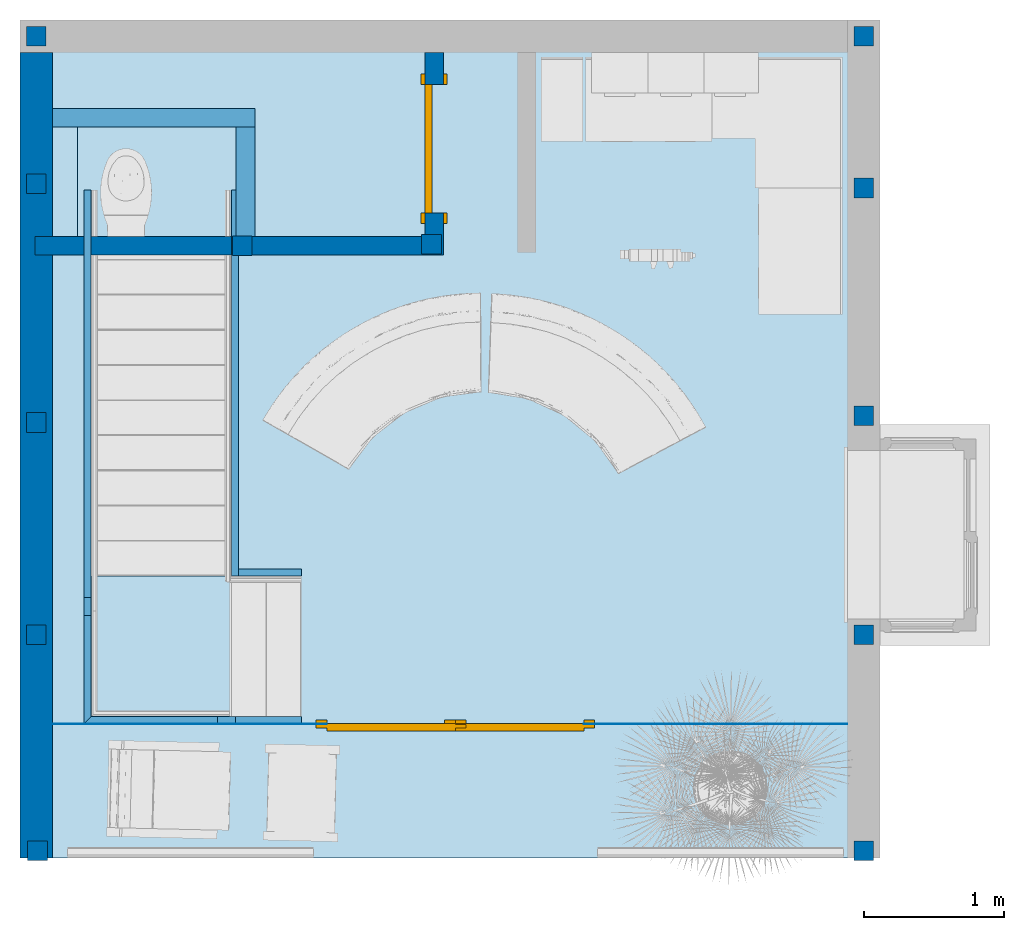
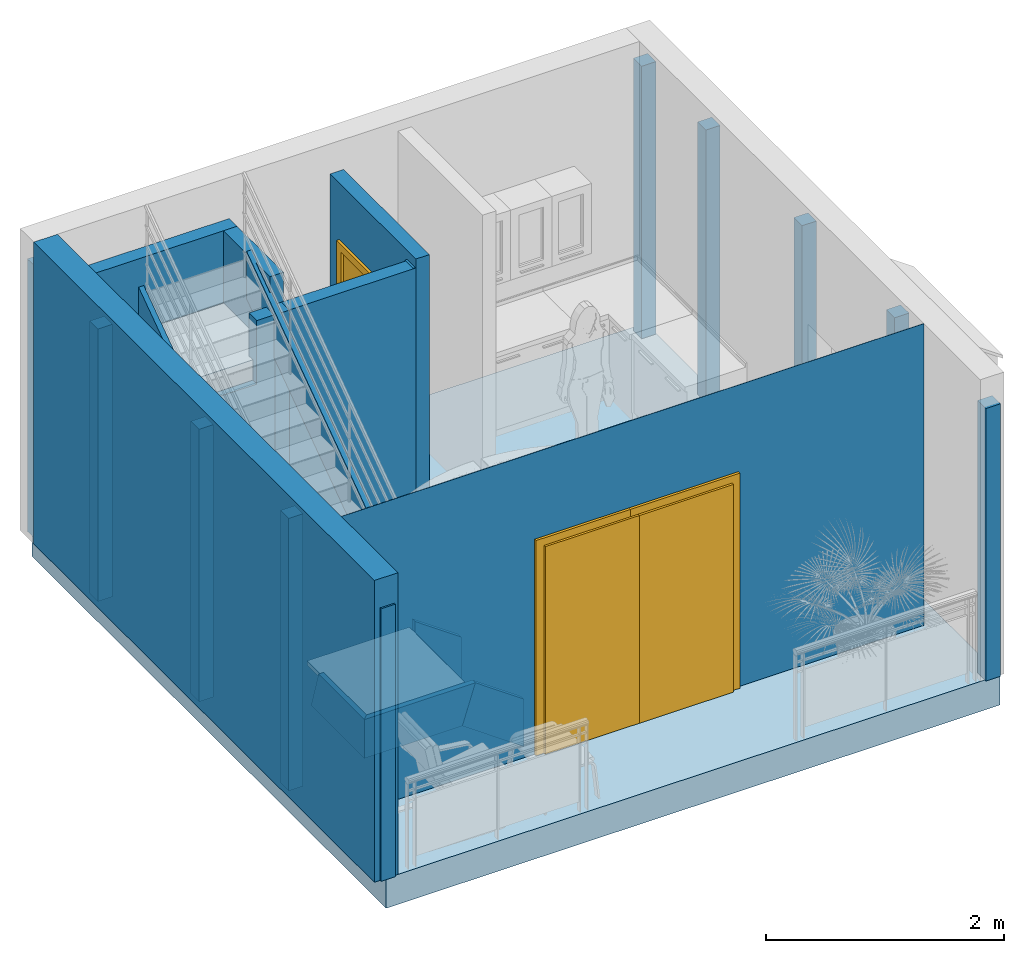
# One storey, part 1 of 7: 12 columns, 6 members, 6 walls, 3 doors, 3 slabs, 4 openings, 1 element without a shape of its own.
"""IFC2X3 building model written with IfcOpenShell, lengths in metres."""

from ifc_helpers import new_model, entity, si_unit, converted_unit, derived_unit, direction, frame, frame_2d, origin, origin_2d_with_axis, place, context, subcontext, project, spatial, polyline, circle_curve, parameter, trimmed, segment, composite_curve, rectangle, outline, extrude, clip, bounded_halfspace, faceted_brep, source, transform, mapped, material, layer, layer_set, layer_usage, type_object, type_shapes, element, fill, aggregate, save


model = new_model("IFC2X3")

# Units and contexts
model_context = context("Model", 3, precision=1e-05, world=origin(), true_north=direction((6.123233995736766e-17, 1.0)))
body_context = subcontext(model_context, "Body", "Model", "MODEL_VIEW")
ifc_project = project(units=[si_unit("LENGTHUNIT", "METRE"), si_unit("AREAUNIT", "SQUARE_METRE"), converted_unit("PLANEANGLEUNIT", "DEGREE", entity("IfcPlaneAngleMeasure", 0.017453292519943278), si_unit("PLANEANGLEUNIT", "RADIAN"), dimensions=[0, 0, 0, 0, 0, 0, 0]), derived_unit("THERMALTRANSMITTANCEUNIT", [(si_unit("MASSUNIT", "GRAM", prefix="KILO"), 1), (si_unit("THERMODYNAMICTEMPERATUREUNIT", "KELVIN"), -1), (si_unit("TIMEUNIT", "SECOND"), -3)])], contexts=[model_context])

# Site, building, storey
site_placement = place(None, origin())
site = spatial("IfcSite", under=ifc_project, at=site_placement, Name="Default", CompositionType="ELEMENT")
building_placement = place(site_placement, origin())
building = spatial("IfcBuilding", under=site, at=building_placement, CompositionType="ELEMENT")
storey_placement = place(building_placement, origin())
storey = spatial("IfcBuildingStorey", under=building, at=storey_placement, Name="0 - Ground Floor", CompositionType="ELEMENT", Elevation=0.0)

# Columns
ifc_material_1 = material(Name="Softwood, Lumber")
column_type_1 = type_object("IfcColumnType", Name="M_Timber-Column:140x140", PredefinedType="COLUMN", material=ifc_material_1)
shared_shape_1 = source(origin(), body_context, "Body", "SweptSolid", [
    extrude(rectangle(XDim=0.1397, YDim=0.1397, at=origin_2d_with_axis()), frame((0.0, 0.0, 0.0), z_axis=(0.0, 0.0, 1.0), x_axis=(-1.0, 0.0, 0.0)), (0.0, 0.0, 1.0), 2.8000000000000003),
])
type_shapes(column_type_1, [shared_shape_1])
for number, where, name in (
    (1, (-2.41192403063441, -2.145749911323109, 0.0), "M_Timber-Column:140x140"),
    (2, (-2.4219240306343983, 3.652051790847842, 0.0), "M_Timber-Column:140x140"),
    (3, (3.468075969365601, 3.652051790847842, 0.0), "M_Timber-Column:140x140"),
    (4, (3.468075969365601, -2.1457499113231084, 0.0), "M_Timber-Column:140x140"),
    (5, (3.468075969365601, 0.9511031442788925, 0.0), "M_Timber-Column:140x140"),
    (6, (-2.421924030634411, 0.9020517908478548, 0.0), "M_Timber-Column:140x140"),
    (7, (-2.4219240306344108, 2.6020517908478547, 0.0), "M_Timber-Column:140x140"),
    (8, (3.468075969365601, 2.5711031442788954, 0.0), "M_Timber-Column:140x140"),
    (9, (3.468075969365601, -0.6088968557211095, 0.0), "M_Timber-Column:140x140"),
    (10, (-2.421924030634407, -0.6088968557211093, 0.0), "M_Timber-Column:140x140"),
):
    element("IfcColumn", number, at=place(storey_placement, frame(where)), inside=storey, type_object=column_type_1, material=ifc_material_1, Name=name, ObjectType="M_Timber-Column:140x140", context=body_context, shape_type="MappedRepresentation", body=[
        mapped(shared_shape_1, transform((0.0, 0.0, 0.0), scale=1.0)),
    ])
column_type_2 = type_object("IfcColumnType", Name="M_Timber-Column:140x140", PredefinedType="COLUMN", material=ifc_material_1)
shared_shape_2 = source(origin(), body_context, "Body", "SweptSolid", [
    extrude(rectangle(XDim=0.1397, YDim=0.1397, at=origin_2d_with_axis()), frame((0.0, 0.0, 0.0), z_axis=(0.0, 0.0, 1.0), x_axis=(-1.0, 0.0, 0.0)), (0.0, 0.0, 1.0), 2.7),
])
type_shapes(column_type_2, [shared_shape_2])
for number, where, name in (
    (11, (0.39207596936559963, 2.1701031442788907, 0.0), "M_Timber-Column:140x140"),
    (12, (-0.9559240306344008, 2.160103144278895, 0.0), "M_Timber-Column:140x140"),
):
    element("IfcColumn", number, at=place(storey_placement, frame(where)), inside=storey, type_object=column_type_2, material=ifc_material_1, Name=name, ObjectType="M_Timber-Column:140x140", context=body_context, shape_type="MappedRepresentation", body=[
        mapped(shared_shape_2, transform((0.0, 0.0, 0.0), scale=1.0)),
    ])

# Stair, members
type_product = type_object("IfcTypeProduct", Name="Assembled Stair:Industrial and Assembly")
stair_placement = place(storey_placement, origin())
stair = element("IfcStair", 13, at=stair_placement, inside=storey, type_object=type_product, Name="Assembled Stair:Stair", ObjectType="Assembled Stair:Industrial and Assembly", ShapeType="QUARTER_TURN_STAIR")
ifc_material_2 = material(Name="Default - Calcestruzzo")
member_type = type_object("IfcMemberType", Name="Stringer:Stringer - 50mm Width", PredefinedType="STRINGER")
member_1_placement = place(stair_placement, origin())
member_1 = element("IfcMember", 14, at=member_1_placement, type_object=member_type, material=ifc_material_2, Name="Assembled Stair:Stair:593008 Stringer 1", ObjectType="Stringer:Stringer - 50mm Width", context=body_context, shape_type="SweptSolid", body=[
    extrude(outline(polyline([(-0.4680746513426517, -0.20000000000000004), (0.2634206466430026, -0.2), (0.3903757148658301, 0.2000000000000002), (-0.18572171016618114, 0.2), (-0.4680746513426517, -0.20000000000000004)])), frame((-0.7989893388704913, -1.2417499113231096, 0.5438362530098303), z_axis=(0.0, 1.0, 0.0), x_axis=(-0.8169678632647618, 0.0, 0.5766831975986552)), (0.0, 0.0, 1.0), 0.05),
])
member_2_placement = place(stair_placement, origin())
member_2 = element("IfcMember", 15, at=member_2_placement, type_object=member_type, material=ifc_material_2, Name="Assembled Stair:Stair:593008 Stringer 2", ObjectType="Stringer:Stringer - 50mm Width", context=body_context, shape_type="SweptSolid", body=[
    extrude(outline(polyline([(-0.4678557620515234, -0.19460099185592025), (0.08296149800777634, -0.1946009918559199), (0.2050826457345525, -0.021596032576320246), (0.3653144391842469, 0.20539900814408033), (-0.18550282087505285, 0.20539900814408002), (-0.4678557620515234, -0.19460099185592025)])), frame((-0.8019240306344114, -0.19174991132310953, 0.5392992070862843), z_axis=(0.0, 1.0, 0.0), x_axis=(-0.8169678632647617, 0.0, 0.5766831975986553)), (0.0, 0.0, 1.0), 0.05),
])
member_3_placement = place(stair_placement, origin())
member_3 = element("IfcMember", 16, at=member_3_placement, type_object=member_type, material=ifc_material_2, Name="Assembled Stair:Stair:593008 Stringer 3", ObjectType="Stringer:Stringer - 50mm Width", context=body_context, shape_type="SweptSolid", body=[
    extrude(outline(polyline([(-1.878646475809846, -0.20000000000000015), (1.673992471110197, -0.19999999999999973), (1.9563454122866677, 0.20000000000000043), (-1.7516914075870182, 0.20000000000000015), (-1.878646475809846, -0.20000000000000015)])), frame((-2.081924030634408, 1.0753153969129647, 1.7791303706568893), z_axis=(1.0, 0.0, 0.0), x_axis=(0.0, 0.8169678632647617, 0.5766831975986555)), (0.0, 0.0, 1.0), 0.04999999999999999),
])
member_4_placement = place(stair_placement, origin())
member_4 = element("IfcMember", 17, at=member_4_placement, type_object=member_type, material=ifc_material_2, Name="Assembled Stair:Stair:593008 Stringer 4", ObjectType="Stringer:Stringer - 50mm Width", context=body_context, shape_type="SweptSolid", body=[
    extrude(outline(polyline([(-1.824229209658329, -0.2), (1.5418762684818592, -0.20000000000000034), (1.8242292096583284, 0.20000000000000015), (-1.5418762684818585, 0.19999999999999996), (-1.824229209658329, -0.2)])), frame((-1.031924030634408, 1.1832500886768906, 1.8553195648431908), z_axis=(1.0, 0.0, 0.0), x_axis=(0.0, 0.8169678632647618, 0.5766831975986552)), (0.0, 0.0, 1.0), 0.049999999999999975),
])
member_5_placement = place(stair_placement, frame((-2.081924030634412, -1.2417499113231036, 0.5323529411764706)))
member_5 = element("IfcMember", 18, at=member_5_placement, type_object=member_type, material=ifc_material_2, Name="Assembled Stair:Stair:593008 Stringer 5", ObjectType="Stringer:Stringer - 50mm Width", context=body_context, shape_type="Brep", body=[
    faceted_brep([(0.050000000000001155, 0.7706530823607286, 0.4), (0.0, 0.7706530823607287, 0.4), (0.0, 0.0, 0.4), (0.04999999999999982, 0.0499999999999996, 0.4), (0.050000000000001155, 0.8976081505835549, 0.0), (0.04999999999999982, 0.0499999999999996, 0.0), (0.0, 0.8976081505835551, 0.0), (0.0, 0.0, 0.0)], [[[0, 1, 2, 3]], [[4, 0, 3, 5]], [[6, 4, 5, 7]], [[1, 6, 7, 2]], [[1, 0, 4, 6]], [[2, 7, 5, 3]]]),
])
member_6_placement = place(stair_placement, frame((-2.081924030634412, -1.2417499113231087, 0.5323529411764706)))
member_6 = element("IfcMember", 19, at=member_6_placement, type_object=member_type, material=ifc_material_2, Name="Assembled Stair:Stair:593008 Stringer 6", ObjectType="Stringer:Stringer - 50mm Width", context=body_context, shape_type="Brep", body=[
    faceted_brep([(0.04999999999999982, 0.05000000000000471, 0.4), (0.0, 0.0, 0.4), (1.0793469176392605, 0.0, 0.4), (1.0793469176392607, 0.050000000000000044, 0.4), (0.04999999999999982, 0.05000000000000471, 0.0), (0.9523918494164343, 0.05000000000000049, 0.0), (0.0, 0.0, 0.0), (0.9523918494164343, 0.0, 0.0)], [[[0, 1, 2, 3]], [[4, 0, 3, 5]], [[6, 4, 5, 7]], [[1, 6, 7, 2]], [[1, 0, 4, 6]], [[2, 7, 5, 3]]]),
])

# Slab
ifc_material_3 = material(Name="Wood Vinyl Finish")
ifc_layer_1 = layer(ifc_material_3, 0.015)
ifc_material_4 = material(Name="wood fiber")
ifc_layer_2 = layer(ifc_material_4, 0.02)
ifc_material_5 = material(Name="Structure, Timber Joist/Rafter Layer")
ifc_layer_3 = layer(ifc_material_5, 0.2)
ifc_material_6 = material(Name="cross laminated timber")
ifc_layer_4 = layer(ifc_material_6, 0.02)
ifc_material_7 = material(Name="vapor barrier")
ifc_layer_5 = layer(ifc_material_7, 0.003)
ifc_material_8 = material(Name="Ghiaia")
ifc_layer_6 = layer(ifc_material_8, 0.05)
ifc_layer_set_1 = layer_set([ifc_layer_1, ifc_layer_2, ifc_layer_3, ifc_layer_4, ifc_layer_5, ifc_layer_6], Name="Floor:Latero Cementizio - 40 cm")
ifc_layer_usage_1 = layer_usage(ifc_layer_set_1, "AXIS3", "POSITIVE", 0.0)
slab_type_1 = type_object("IfcSlabType", Name="Floor:Latero Cementizio - 40 cm", PredefinedType="FLOOR", material=ifc_layer_set_1)
slab_1_placement = place(storey_placement, origin())
element("IfcSlab", 20, at=slab_1_placement, inside=storey, type_object=slab_type_1, material=ifc_layer_usage_1, Name="Floor:Latero Cementizio - 40 cm", ObjectType="Floor:Latero Cementizio - 40 cm", PredefinedType="FLOOR", context=body_context, shape_type="SweptSolid", body=[
    extrude(rectangle(XDim=5.965000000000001, YDim=5.965, at=frame_2d((0.0, 2.220446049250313e-16), x_axis=(1.0, 0.0))), frame((0.5605759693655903, 0.7845517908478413, 0.0), z_axis=(0.0, 0.0, -1.0), x_axis=(0.0, 1.0, 0.0)), (0.0, 0.0, 1.0), 0.30799999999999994),
])

slab_type_2 = type_object("IfcSlabType", Name="Non-Monolithic Landing:Non-Monolithic Landing", PredefinedType="LANDING")
slab_2_placement = place(stair_placement, origin())
slab_2 = element("IfcSlab", 21, at=slab_2_placement, type_object=slab_type_2, material=ifc_material_2, Name="Assembled Stair:Stair:593008 Landing 1", ObjectType="Non-Monolithic Landing:Non-Monolithic Landing", PredefinedType="LANDING", context=body_context, shape_type="SweptSolid", body=[
    extrude(outline(composite_curve([segment(trimmed(circle_curve(frame_2d((-0.3959999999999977, 0.01399999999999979), x_axis=(1.0, 0.0)), 0.009999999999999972), [parameter(90.00000000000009)], [parameter(269.9999999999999)], True, "PARAMETER"), True, "CONTINUOUS"), segment(polyline([(-0.3959999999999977, 0.0039999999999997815), (-0.3959999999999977, -0.026000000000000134)]), True, "CONTINUOUS"), segment(polyline([(-0.3959999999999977, -0.026000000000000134), (0.5939999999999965, -0.026000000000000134)]), True, "CONTINUOUS"), segment(polyline([(0.5939999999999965, -0.026000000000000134), (0.5939999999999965, 0.0239999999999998)]), True, "CONTINUOUS"), segment(polyline([(0.5939999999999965, 0.0239999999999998), (-0.3959999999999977, 0.0239999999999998)]), True, "CONTINUOUS")], self_intersect=False)), frame((-1.4379240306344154, -1.191749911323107, 0.8583529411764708), z_axis=(0.0, 1.0, 0.0), x_axis=(-1.0, 0.0, 0.0)), (0.0, 0.0, 1.0), 0.9999999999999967),
])

aggregate(stair, [slab_2, member_1, member_2, member_3, member_4, member_5, member_6])

ifc_layer_7 = layer(ifc_material_2, 0.20999999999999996)
ifc_layer_set_2 = layer_set([ifc_layer_7], Name="Floor:Calcestruzzo da 160 mm con soletta metallica da 50 mm")
ifc_layer_usage_2 = layer_usage(ifc_layer_set_2, "AXIS3", "POSITIVE", 0.0)
slab_type_3 = type_object("IfcSlabType", Name="Floor:Calcestruzzo da 160 mm con soletta metallica da 50 mm", PredefinedType="FLOOR", material=ifc_layer_set_2)
slab_3_placement = place(storey_placement, origin())
element("IfcSlab", 22, at=slab_3_placement, inside=storey, type_object=slab_type_3, material=ifc_layer_usage_2, Name="Floor:Calcestruzzo da 160 mm con soletta metallica da 50 mm", ObjectType="Floor:Calcestruzzo da 160 mm con soletta metallica da 50 mm", PredefinedType="FLOOR", context=body_context, shape_type="SweptSolid", body=[
    extrude(rectangle(XDim=0.9099999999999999, YDim=1.1945999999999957, at=frame_2d((0.0, -1.1102230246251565e-16), x_axis=(1.0, 0.0))), frame((-1.5292240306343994, 2.615103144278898, 2.258215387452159), z_axis=(0.0, 0.0, -1.0), x_axis=(0.0, 1.0, 0.0)), (0.0, 0.0, 1.0), 0.2099999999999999),
])

# Wall
ifc_material_9 = material(Name="gypsum plaster")
ifc_layer_8 = layer(ifc_material_9, 0.025)
ifc_layer_9 = layer(ifc_material_4, 0.02)
ifc_material_10 = material(Name="osb panel")
ifc_layer_10 = layer(ifc_material_10, 0.02)
ifc_layer_11 = layer(ifc_material_4, 0.02)
ifc_material_11 = material(Name="water proof and wind proof sheet")
ifc_layer_12 = layer(ifc_material_11, 0.005)
ifc_layer_13 = layer(ifc_material_10, 0.02)
ifc_material_12 = material(Name="mineral rock wool")
ifc_layer_14 = layer(ifc_material_12, 0.04)
ifc_material_13 = material(Name="air cavity")
ifc_layer_15 = layer(ifc_material_13, 0.05)
ifc_material_14 = material(Name="plaster board panel")
ifc_layer_16 = layer(ifc_material_14, 0.03)
ifc_layer_set_3 = layer_set([ifc_layer_8, ifc_layer_9, ifc_layer_10, ifc_layer_11, ifc_layer_12, ifc_layer_13, ifc_layer_14, ifc_layer_15, ifc_layer_16], Name="Basic Wall:external wall 2")
ifc_layer_usage_3 = layer_usage(ifc_layer_set_3, "AXIS2", "NEGATIVE", 0.11500000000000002)
wall_type_1 = type_object("IfcWallType", Name="Basic Wall:external wall 2", PredefinedType="STANDARD", material=ifc_layer_set_3)
wall_1_placement = place(storey_placement, frame((-2.421924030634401, 3.537051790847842, 0.0), z_axis=(0.0, 0.0, 1.0), x_axis=(0.0, -1.0, 0.0)))
element("IfcWallStandardCase", 23, at=wall_1_placement, inside=storey, type_object=wall_type_1, material=ifc_layer_usage_3, Name="Basic Wall:external wall 2", ObjectType="Basic Wall:external wall 2", context=body_context, shape_type="SweptSolid", body=[
    extrude(rectangle(XDim=5.735000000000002, YDim=0.22999999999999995, at=frame_2d((2.867500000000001, 3.122502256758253e-16), x_axis=(-1.0, 0.0))), origin(), (0.0, 0.0, 1.0), 3.0999999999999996),
])

# Wall, opening
ifc_material_15 = material(Name="Tiles")
ifc_layer_17 = layer(ifc_material_15, 0.003999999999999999)
ifc_material_16 = material(Name="Cement Board")
ifc_layer_18 = layer(ifc_material_16, 0.046)
ifc_layer_19 = layer(ifc_material_11, 0.003999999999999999)
ifc_layer_20 = layer(ifc_material_6, 0.02)
ifc_material_17 = material(Name="polyethylene plastic sheeting")
ifc_layer_21 = layer(ifc_material_17, 0.006)
ifc_layer_22 = layer(ifc_material_6, 0.02)
ifc_material_18 = material(Name="acoustic oak wood wall cladding")
ifc_layer_23 = layer(ifc_material_18, 0.02)
ifc_material_19 = material(Name="Gypsum Wall Board")
ifc_layer_24 = layer(ifc_material_19, 0.012)
ifc_layer_set_4 = layer_set([ifc_layer_17, ifc_layer_18, ifc_layer_19, ifc_layer_20, ifc_layer_21, ifc_layer_22, ifc_layer_23, ifc_layer_24], Name="Basic Wall:interior v1")
ifc_layer_usage_4 = layer_usage(ifc_layer_set_4, "AXIS2", "NEGATIVE", 0.066)
wall_type_2 = type_object("IfcWallType", Name="Basic Wall:interior v1", PredefinedType="STANDARD", material=ifc_layer_set_4)
wall_2_placement = place(storey_placement, frame((-2.431924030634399, 2.1601031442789, 0.0)))
wall_2 = element("IfcWallStandardCase", 24, at=wall_2_placement, inside=storey, type_object=wall_type_2, material=ifc_layer_usage_4, Name="Basic Wall:interior v1", ObjectType="Basic Wall:interior v1", context=body_context, shape_type="SweptSolid", body=[
    extrude(rectangle(XDim=2.7759999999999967, YDim=0.13199999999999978, at=frame_2d((1.3879999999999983, 8.326672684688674e-17), x_axis=(-1.0, 0.0))), origin(), (0.0, 0.0, 1.0), 2.7),
])
opening_1_placement = place(wall_2_placement, origin())
element("IfcOpeningElement", 25, at=opening_1_placement, cuts=wall_2, Name="Basic Wall:interior v1", ObjectType="Opening", context=body_context, shape_type="SweptSolid", body=[
    extrude(rectangle(XDim=0.6517846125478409, YDim=1.2299999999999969, at=frame_2d((2.7755575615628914e-16, 0.0), x_axis=(0.0, 1.0))), frame((0.6149999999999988, 0.06600000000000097, 2.3741076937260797), z_axis=(0.0, -1.0, 0.0), x_axis=(-1.0, 0.0, 0.0)), (0.0, 0.0, 1.0), 0.132),
])

# Wall, opening, door
ifc_layer_usage_5 = layer_usage(ifc_layer_set_4, "AXIS2", "NEGATIVE", 0.066)
wall_3_placement = place(storey_placement, frame((0.41007596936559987, 3.5370517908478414, 0.0), z_axis=(0.0, 0.0, 1.0), x_axis=(0.0, -1.0, 0.0)))
wall_3 = element("IfcWallStandardCase", 26, at=wall_3_placement, inside=storey, type_object=wall_type_2, material=ifc_layer_usage_5, Name="Basic Wall:interior v1", ObjectType="Basic Wall:interior v1", context=body_context, shape_type="Clipping", body=[
    clip(extrude(rectangle(XDim=1.4429486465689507, YDim=0.13200000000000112, at=frame_2d((0.7214743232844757, -6.522560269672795e-16), x_axis=(1.0, 0.0))), origin(), (0.0, 0.0, 1.0), 2.792), bounded_halfspace(frame((0.0, -0.066, 2.792), z_axis=(0.0, 0.0, -1.0), x_axis=(1.0, 0.0, 0.0)), True, frame((0.0, -0.066, 2.792)), polyline([(0.0, 0.0), (1.442948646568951, 0.0), (1.4429486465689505, 0.13199999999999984), (0.0, 0.13200000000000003), (0.0, 0.0)]))),
])
opening_2_placement = place(wall_3_placement, frame((1.143804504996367, 0.06599999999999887, 0.0)))
opening_2 = element("IfcOpeningElement", 27, at=opening_2_placement, cuts=wall_3, Name="M_Single-Flush:0915 x 2134mm:1", ObjectType="Opening", context=body_context, shape_type="SweptSolid", body=[
    extrude(rectangle(XDim=0.9149999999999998, YDim=2.1339999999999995, at=frame_2d((1.0669999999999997, 0.45749999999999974), x_axis=(0.0, 1.0))), frame((0.0, 0.0, 0.0), z_axis=(0.0, -1.0, 0.0), x_axis=(0.0, 0.0, 1.0)), (0.0, 0.0, 1.0), 0.132),
])
ifc_material_20 = material(Name="Glass")
door_style_1 = type_object("IfcDoorStyle", Name="M_Single-Flush:0915 x 2134mm", ConstructionType="NOTDEFINED", OperationType="SINGLE_SWING_RIGHT", ParameterTakesPrecedence=False, Sizeable=False, material=ifc_material_20)
shared_shape_3 = source(origin(), body_context, "Body", "SweptSolid", [
    extrude(outline(polyline([(-0.5335, -1.1239999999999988), (0.5334999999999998, -1.1239999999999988), (0.5334999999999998, 1.0860000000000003), (0.45749999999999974, 1.0860000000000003), (0.45749999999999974, -1.0480000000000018), (-0.45749999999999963, -1.0480000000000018), (-0.45749999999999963, 1.0860000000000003), (-0.5335, 1.0860000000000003), (-0.5335, -1.1239999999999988)])), frame((0.45750000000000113, 0.13200000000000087, 1.0860000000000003), z_axis=(0.0, 1.0, 0.0), x_axis=(1.0, 0.0, 0.0)), (0.0, 0.0, 1.0), 0.024999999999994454),
    extrude(outline(polyline([(-1.1239999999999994, -0.5334999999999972), (1.0859999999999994, -0.5334999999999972), (1.0859999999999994, -0.4575000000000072), (-1.0479999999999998, -0.4575000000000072), (-1.0479999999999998, 0.4575000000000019), (1.0859999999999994, 0.4575000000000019), (1.0859999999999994, 0.5335000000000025), (-1.1239999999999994, 0.5335000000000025), (-1.1239999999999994, -0.5334999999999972)])), frame((0.4575000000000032, -0.02500000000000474, 1.0859999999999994), z_axis=(0.0, 1.0, 0.0), x_axis=(0.0, 0.0, -1.0)), (0.0, 0.0, 1.0), 0.025000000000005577),
    extrude(rectangle(XDim=0.051000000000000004, YDim=0.9149999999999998, at=frame_2d((-3.469446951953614e-18, 0.0), x_axis=(1.0, 0.0))), frame((0.45750000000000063, 0.10650000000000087, 0.0), z_axis=(0.0, 0.0, 1.0), x_axis=(0.0, 1.0, 0.0)), (0.0, 0.0, 1.0), 2.133999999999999),
])
type_shapes(door_style_1, [shared_shape_3])
door_1_placement = place(opening_2_placement, frame((0.0, 0.0, 0.0), z_axis=(0.0, 0.0, 1.0), x_axis=(-1.0, 0.0, 0.0)))
door_1 = element("IfcDoor", 28, at=door_1_placement, inside=storey, type_object=door_style_1, material=ifc_material_20, Name="M_Single-Flush:0915 x 2134mm", ObjectType="M_Single-Flush:0915 x 2134mm", OverallHeight=2.1339999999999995, OverallWidth=0.9149999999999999, context=body_context, shape_type="MappedRepresentation", body=[
    mapped(shared_shape_3, transform((0.0, 0.0, 0.0), scale=1.0)),
])
fill(opening_2, door_1)

# Walls
ifc_layer_usage_6 = layer_usage(ifc_layer_set_4, "AXIS2", "NEGATIVE", 0.066)
wall_4_placement = place(storey_placement, frame((-2.3069240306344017, 3.0718583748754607, 2.048215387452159)))
element("IfcWallStandardCase", 29, at=wall_4_placement, inside=storey, type_object=wall_type_2, material=ifc_layer_usage_6, Name="Basic Wall:interior v1", ObjectType="Basic Wall:interior v1", context=body_context, shape_type="SweptSolid", body=[
    extrude(rectangle(XDim=1.4410000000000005, YDim=0.13200000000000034, at=frame_2d((0.7205000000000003, -1.1102230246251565e-16), x_axis=(-1.0, 0.0))), origin(), (0.0, 0.0, 1.0), 0.9517846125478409),
])
ifc_layer_usage_7 = layer_usage(ifc_layer_set_4, "AXIS2", "NEGATIVE", 0.066)
wall_5_placement = place(storey_placement, frame((-0.9319240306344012, 3.005858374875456, 2.048215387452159), z_axis=(0.0, 0.0, 1.0), x_axis=(0.0, -1.0, 0.0)))
element("IfcWallStandardCase", 30, at=wall_5_placement, inside=storey, type_object=wall_type_2, material=ifc_layer_usage_7, Name="Basic Wall:interior v1", ObjectType="Basic Wall:interior v1", context=body_context, shape_type="SweptSolid", body=[
    extrude(rectangle(XDim=0.7797552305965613, YDim=0.13200000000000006, at=frame_2d((0.38987761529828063, 3.469446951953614e-17), x_axis=(-1.0, 0.0))), origin(), (0.0, 0.0, 1.0), 0.9517846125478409),
])

# Wall, openings, doors
ifc_material_21 = material(Name="Glass, Clear Glazing")
ifc_layer_25 = layer(ifc_material_21, 0.004)
ifc_layer_set_5 = layer_set([ifc_layer_25], Name="Basic Wall:Exterior - Brick on Mtl. Stud")
ifc_layer_usage_8 = layer_usage(ifc_layer_set_5, "AXIS2", "NEGATIVE", 0.002000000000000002)
wall_type_3 = type_object("IfcWallType", Name="Basic Wall:Exterior - Brick on Mtl. Stud", PredefinedType="STANDARD", material=ifc_layer_set_5)
wall_6_placement = place(storey_placement, frame((3.3530759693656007, -1.2437499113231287, 0.0), z_axis=(0.0, 0.0, 1.0), x_axis=(-1.0, 0.0, 0.0)))
wall_6 = element("IfcWallStandardCase", 31, at=wall_6_placement, inside=storey, type_object=wall_type_3, material=ifc_layer_usage_8, Name="Basic Wall:Exterior - Brick on Mtl. Stud", ObjectType="Basic Wall:Exterior - Brick on Mtl. Stud", context=body_context, shape_type="SweptSolid", body=[
    extrude(rectangle(XDim=5.660000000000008, YDim=0.0040000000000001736, at=frame_2d((2.830000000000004, -9.93129189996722e-17), x_axis=(-1.0, 0.0))), origin(), (0.0, 0.0, 1.0), 3.0999999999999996),
])
opening_3_placement = place(wall_6_placement, frame((3.7059766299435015, 0.0019999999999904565, 0.0)))
opening_3 = element("IfcOpeningElement", 32, at=opening_3_placement, cuts=wall_6, Name="M_Single-Flush:0915 x 2134mm:1", ObjectType="Opening", context=body_context, shape_type="SweptSolid", body=[
    extrude(rectangle(XDim=0.9149999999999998, YDim=2.1339999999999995, at=frame_2d((1.0669999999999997, 0.4574999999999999), x_axis=(0.0, -1.0))), frame((0.0, 0.0, 0.0), z_axis=(0.0, -1.0, 0.0), x_axis=(0.0, 0.0, 1.0)), (0.0, 0.0, 1.0), 0.004000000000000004),
])
opening_4_placement = place(wall_6_placement, frame((2.790976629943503, 0.0019999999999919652, 0.0)))
opening_4 = element("IfcOpeningElement", 33, at=opening_4_placement, cuts=wall_6, Name="M_Single-Flush:0915 x 2134mm:1", ObjectType="Opening", context=body_context, shape_type="SweptSolid", body=[
    extrude(rectangle(XDim=0.9149999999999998, YDim=2.1339999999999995, at=frame_2d((1.0669999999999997, 0.45749999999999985), x_axis=(0.0, 1.0))), frame((0.0, 0.0, 0.0), z_axis=(0.0, -1.0, 0.0), x_axis=(0.0, 0.0, 1.0)), (0.0, 0.0, 1.0), 0.004000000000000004),
])
door_style_2 = type_object("IfcDoorStyle", Name="M_Single-Flush:0915 x 2134mm", ConstructionType="NOTDEFINED", OperationType="SINGLE_SWING_LEFT", ParameterTakesPrecedence=False, Sizeable=False, material=ifc_material_20)
shared_shape_4 = source(origin(), body_context, "Body", "SweptSolid", [
    extrude(outline(polyline([(-0.5335, -1.1239999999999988), (0.5334999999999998, -1.1239999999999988), (0.5334999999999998, 1.0860000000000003), (0.45749999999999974, 1.0860000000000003), (0.45749999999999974, -1.0480000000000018), (-0.45749999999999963, -1.0480000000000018), (-0.45749999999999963, 1.0860000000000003), (-0.5335, 1.0860000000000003), (-0.5335, -1.1239999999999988)])), frame((0.45750000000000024, 0.028999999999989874, 1.0860000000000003), z_axis=(0.0, -1.0, 0.0), x_axis=(-1.0, 0.0, 0.0)), (0.0, 0.0, 1.0), 0.024999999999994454),
    extrude(outline(polyline([(-1.1239999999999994, -0.5334999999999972), (1.0859999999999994, -0.5334999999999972), (1.0859999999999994, -0.4575000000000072), (-1.0479999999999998, -0.4575000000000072), (-1.0479999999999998, 0.4575000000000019), (1.0859999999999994, 0.4575000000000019), (1.0859999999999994, 0.5335000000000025), (-1.1239999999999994, 0.5335000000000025), (-1.1239999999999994, -0.5334999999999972)])), frame((0.45749999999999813, 0.0, 1.0859999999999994), z_axis=(0.0, -1.0, 0.0), x_axis=(0.0, 0.0, -1.0)), (0.0, 0.0, 1.0), 0.025000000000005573),
    extrude(rectangle(XDim=0.9149999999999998, YDim=0.051000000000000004, at=frame_2d((0.0, 3.469446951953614e-18), x_axis=(1.0, 0.0))), frame((0.45750000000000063, -0.021500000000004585, 0.0)), (0.0, 0.0, 1.0), 2.133999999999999),
])
type_shapes(door_style_2, [shared_shape_4])
door_2_placement = place(opening_3_placement, frame((0.0, 0.0, 0.0), z_axis=(0.0, 0.0, 1.0), x_axis=(-1.0, 0.0, 0.0)))
door_2 = element("IfcDoor", 34, at=door_2_placement, inside=storey, type_object=door_style_2, material=ifc_material_20, Name="M_Single-Flush:0915 x 2134mm", ObjectType="M_Single-Flush:0915 x 2134mm", OverallHeight=2.1339999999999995, OverallWidth=0.915, context=body_context, shape_type="MappedRepresentation", body=[
    mapped(shared_shape_4, transform((0.0, 0.0, 0.0), scale=1.0)),
])
fill(opening_3, door_2)
door_style_3 = type_object("IfcDoorStyle", Name="M_Single-Flush:0915 x 2134mm", ConstructionType="NOTDEFINED", OperationType="SINGLE_SWING_RIGHT", ParameterTakesPrecedence=False, Sizeable=False, material=ifc_material_20)
shared_shape_5 = source(origin(), body_context, "Body", "SweptSolid", [
    extrude(outline(polyline([(-0.5335, -1.1239999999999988), (0.5334999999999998, -1.1239999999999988), (0.5334999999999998, 1.0860000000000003), (0.45749999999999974, 1.0860000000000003), (0.45749999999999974, -1.0480000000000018), (-0.45749999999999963, -1.0480000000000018), (-0.45749999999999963, 1.0860000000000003), (-0.5335, 1.0860000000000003), (-0.5335, -1.1239999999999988)])), frame((0.45750000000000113, 0.004000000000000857, 1.0860000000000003), z_axis=(0.0, 1.0, 0.0), x_axis=(1.0, 0.0, 0.0)), (0.0, 0.0, 1.0), 0.024999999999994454),
    extrude(outline(polyline([(-1.1239999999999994, -0.5334999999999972), (1.0859999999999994, -0.5334999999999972), (1.0859999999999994, -0.4575000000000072), (-1.0479999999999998, -0.4575000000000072), (-1.0479999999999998, 0.4575000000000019), (1.0859999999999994, 0.4575000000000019), (1.0859999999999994, 0.5335000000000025), (-1.1239999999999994, 0.5335000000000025), (-1.1239999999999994, -0.5334999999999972)])), frame((0.4575000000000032, -0.025000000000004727, 1.0859999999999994), z_axis=(0.0, 1.0, 0.0), x_axis=(0.0, 0.0, -1.0)), (0.0, 0.0, 1.0), 0.025000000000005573),
    extrude(rectangle(XDim=0.051000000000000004, YDim=0.9149999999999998, at=frame_2d((-1.734723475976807e-18, 0.0), x_axis=(1.0, 0.0))), frame((0.45750000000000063, -0.021499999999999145, 0.0), z_axis=(0.0, 0.0, 1.0), x_axis=(0.0, 1.0, 0.0)), (0.0, 0.0, 1.0), 2.133999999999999),
])
type_shapes(door_style_3, [shared_shape_5])
door_3_placement = place(opening_4_placement, frame((0.0, 0.0, 0.0), z_axis=(0.0, 0.0, 1.0), x_axis=(-1.0, 0.0, 0.0)))
door_3 = element("IfcDoor", 35, at=door_3_placement, inside=storey, type_object=door_style_3, material=ifc_material_20, Name="M_Single-Flush:0915 x 2134mm", ObjectType="M_Single-Flush:0915 x 2134mm", OverallHeight=2.1339999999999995, OverallWidth=0.9149999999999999, context=body_context, shape_type="MappedRepresentation", body=[
    mapped(shared_shape_5, transform((0.0, 0.0, 0.0), scale=1.0)),
])
fill(opening_4, door_3)

save(model, "model.ifc")
